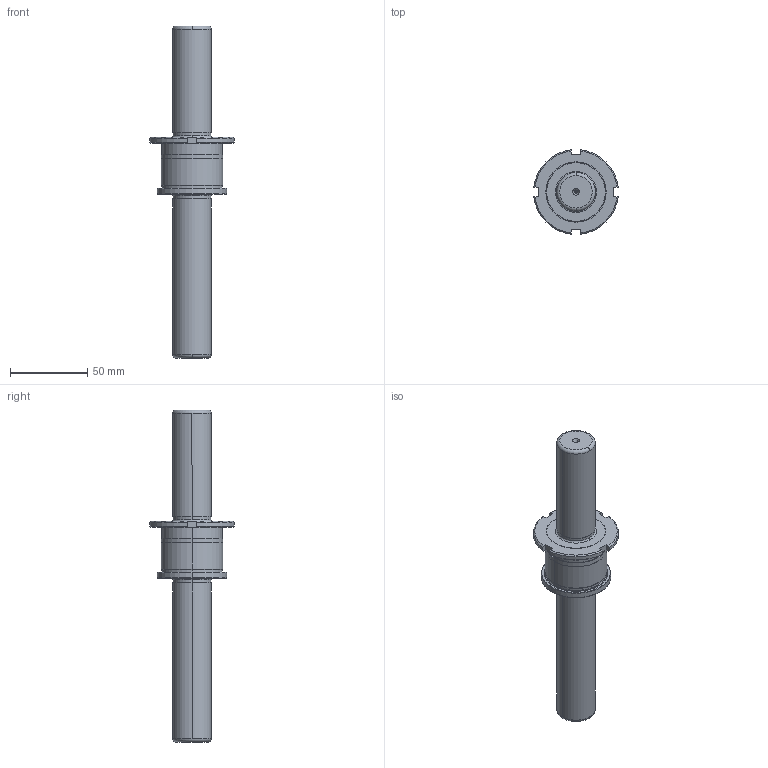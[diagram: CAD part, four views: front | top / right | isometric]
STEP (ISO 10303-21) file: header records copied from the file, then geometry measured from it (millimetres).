
FILE_DESCRIPTION((''),'2;1');
FILE_NAME('CMF_025_215.stp','2008-11-04T11:10:05',(''),(''),'Mechanical Desktop 2009','Mechanical Desktop 2009',', , ');
FILE_SCHEMA(('CONFIG_CONTROL_DESIGN'));
Length unit declared in the file: millimetre
Products named in the file (2): Product; blmdl1
Assembly tree (1 placements, depth 2):
  Product
    blmdl1
Bounding box: 54.67 x 54.67 x 215 mm (x, y, z)
Volume: 137901.6 mm3; surface area: 25629.7 mm2
Topology: 2 solids, 2 shells, 92 faces, 223 edges, 141 vertices
Faces by surface type: cylinder 30, cone 28, plane 24, bspline 6, torus 4
Entity records: 3035 total; most frequent: CARTESIAN_POINT 750, DIRECTION 496, ORIENTED_EDGE 438, EDGE_CURVE 219, AXIS2_PLACEMENT_3D 205, VERTEX_POINT 141, CIRCLE 117, EDGE_LOOP 104
